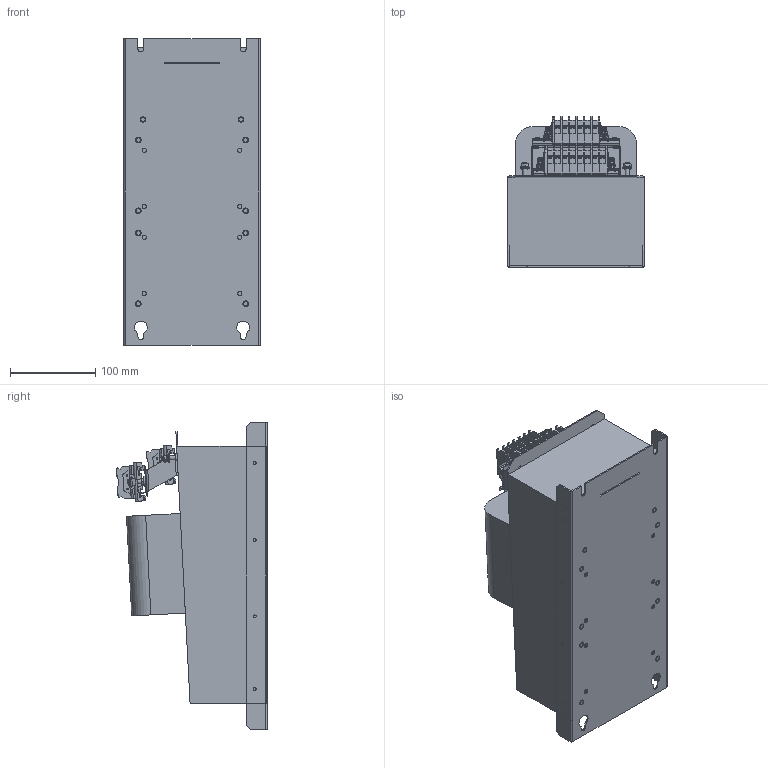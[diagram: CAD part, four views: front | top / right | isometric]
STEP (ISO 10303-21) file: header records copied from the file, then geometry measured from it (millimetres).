
FILE_DESCRIPTION((''),'2;1');
FILE_NAME('C:\SapWorkDir\Inventor\P01\A\EcosineEVO-AnL-E0XXJXX.stp','2016-09-30T08:19:25',('erika.jenzer'),(''),'Autodesk Inventor 2013','Autodesk Inventor 2013','');
FILE_SCHEMA(('AUTOMOTIVE_DESIGN { 1 0 10303 214 1 1 1 1 }'));
Length unit declared in the file: millimetre
Products named in the file (20): 154531_3D MODEL GLORIA FRAME A; 154771_TERMINAL SUPPORT A WITH INSERTS; 154609_TERMINAL SUPPORT A; 112624_INSERT BOLT FH M5X12; 154593_HOUSING A WITH INSERTS; 112721_INSERT NUT SS M5; 154583_BASE PLATE A WITH INSERTS; 154585_BASE PLATE A; 122867_EARTH SCREW M 5 X 20; DIN EN 1661 M5; 154595_TERMINAL MODULE A; 159554_DIN RAIL TH35-7.5 A; 154500_DIN RAIL TH35-7.5 A; 153988_DKB10; 156473_END COVER DKB10E; 160160_SS9A; 154611_TDJ MODULE A; 158872_DIN RAIL TH35-7.5 A-J; 158875_INSULATING FOIL A; 163241_GLORIA A STP DUMMY
Assembly tree (52 placements, depth 4):
  154531_3D MODEL GLORIA FRAME A
    154771_TERMINAL SUPPORT A WITH INSERTS
      154609_TERMINAL SUPPORT A
      112624_INSERT BOLT FH M5X12  x2
    154593_HOUSING A WITH INSERTS
      112721_INSERT NUT SS M5  x2
    154583_BASE PLATE A WITH INSERTS
      154585_BASE PLATE A
      112624_INSERT BOLT FH M5X12  x10
    122867_EARTH SCREW M 5 X 20  x2
    DIN EN 1661 M5  x2
    154595_TERMINAL MODULE A
      159554_DIN RAIL TH35-7.5 A
        154500_DIN RAIL TH35-7.5 A
        112624_INSERT BOLT FH M5X12  x2
      153988_DKB10  x8
      156473_END COVER DKB10E
      160160_SS9A  x2
    154611_TDJ MODULE A
      158872_DIN RAIL TH35-7.5 A-J
      153988_DKB10  x6
      156473_END COVER DKB10E
      160160_SS9A  x2
    158875_INSULATING FOIL A
    163241_GLORIA A STP DUMMY
Bounding box: 160 x 176.94 x 360 mm (x, y, z)
Volume: 5928127.3 mm3; surface area: 502079.2 mm2
Topology: 46 solids, 46 shells, 3705 faces, 10014 edges, 6610 vertices
Faces by surface type: plane 2381, cylinder 880, torus 150, revolution 112, cone 110, sphere 64, bspline 8
Full cylindrical faces by diameter (mm): 1.5 x16, 2.9 x28, 3.5 x8, 3.7 x28, 4 x12, 4.134 x4, 4.567 x2, 5 x40, 5.3 x2, 5.5 x6, 6 x28, 6.206 x14, 6.5 x14, 6.7 x2, 7 x8, 7.26 x2, 8 x2, 8.7 x2, 9 x2, 10 x2
Entity records: 23711 total; most frequent: CARTESIAN_POINT 4650, DIRECTION 3865, ORIENTED_EDGE 3664, EDGE_CURVE 1832, AXIS2_PLACEMENT_3D 1325, VERTEX_POINT 1248, VECTOR 1207, LINE 1207
